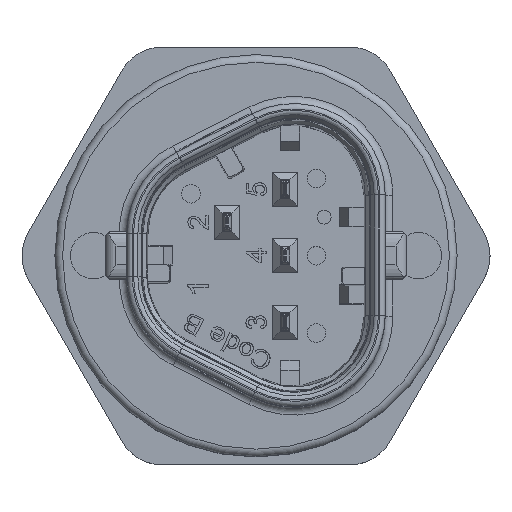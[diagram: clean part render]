
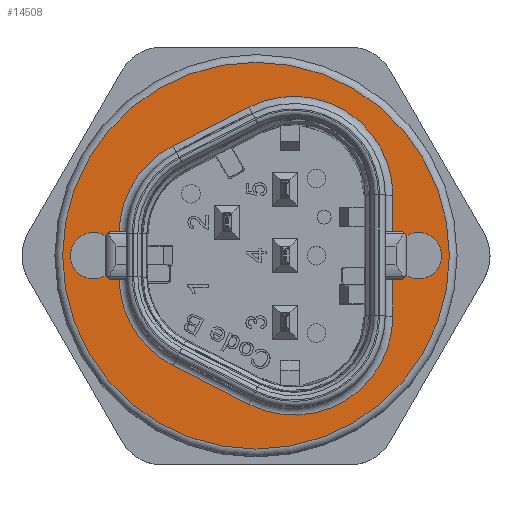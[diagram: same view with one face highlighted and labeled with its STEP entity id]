
A CAD part, top view. The second image highlights one B-rep face of the part: STEP entity #14508.
In plain terms, the highlighted planar face has unit normal (0, 0, 1).
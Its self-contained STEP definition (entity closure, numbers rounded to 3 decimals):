
#8582=LINE('',#39060,#10137);
#8583=LINE('',#39077,#10138);
#8586=LINE('',#39084,#10141);
#8588=LINE('',#39099,#10143);
#10137=VECTOR('',#30703,1.);
#10138=VECTOR('',#30724,1.);
#10141=VECTOR('',#30731,1.);
#10143=VECTOR('',#30751,1.);
#13434=PLANE('',#27627);
#14508=ADVANCED_FACE('',(#14725,#14726,#14727,#14728),#13434,.T.);
#14725=FACE_BOUND('',#15897,.T.);
#14726=FACE_BOUND('',#15898,.T.);
#14727=FACE_BOUND('',#15899,.T.);
#14728=FACE_BOUND('',#15900,.T.);
#15897=EDGE_LOOP('',(#20927));
#15898=EDGE_LOOP('',(#20928));
#15899=EDGE_LOOP('',(#20929));
#15900=EDGE_LOOP('',(#20930,#20931,#20932,#20933,#20934,#20935,#20936,#20937));
#20927=ORIENTED_EDGE('',*,*,#26092,.T.);
#20928=ORIENTED_EDGE('',*,*,#26094,.F.);
#20929=ORIENTED_EDGE('',*,*,#26096,.F.);
#20930=ORIENTED_EDGE('',*,*,#25449,.T.);
#20931=ORIENTED_EDGE('',*,*,#25443,.T.);
#20932=ORIENTED_EDGE('',*,*,#25445,.T.);
#20933=ORIENTED_EDGE('',*,*,#25451,.T.);
#20934=ORIENTED_EDGE('',*,*,#25457,.T.);
#20935=ORIENTED_EDGE('',*,*,#25463,.T.);
#20936=ORIENTED_EDGE('',*,*,#25461,.T.);
#20937=ORIENTED_EDGE('',*,*,#25455,.T.);
#22909=VERTEX_POINT('',#39054);
#22912=VERTEX_POINT('',#39059);
#22914=VERTEX_POINT('',#39064);
#22915=VERTEX_POINT('',#39069);
#22918=VERTEX_POINT('',#39076);
#22919=VERTEX_POINT('',#39081);
#22922=VERTEX_POINT('',#39088);
#22923=VERTEX_POINT('',#39093);
#23314=VERTEX_POINT('',#41058);
#23316=VERTEX_POINT('',#41063);
#23318=VERTEX_POINT('',#41069);
#25443=EDGE_CURVE('',#22909,#22912,#8582,.T.);
#25445=EDGE_CURVE('',#22912,#22914,#26223,.T.);
#25449=EDGE_CURVE('',#22915,#22909,#26227,.T.);
#25451=EDGE_CURVE('',#22914,#22918,#8583,.T.);
#25455=EDGE_CURVE('',#22919,#22915,#8586,.T.);
#25457=EDGE_CURVE('',#22918,#22922,#26231,.T.);
#25461=EDGE_CURVE('',#22923,#22919,#26235,.T.);
#25463=EDGE_CURVE('',#22922,#22923,#8588,.T.);
#26092=EDGE_CURVE('',#23314,#23314,#26320,.T.);
#26094=EDGE_CURVE('',#23316,#23316,#26322,.T.);
#26096=EDGE_CURVE('',#23318,#23318,#26324,.T.);
#26223=CIRCLE('',#27239,6.4);
#26227=CIRCLE('',#27244,6.4);
#26231=CIRCLE('',#27251,6.4);
#26235=CIRCLE('',#27256,6.4);
#26320=CIRCLE('',#27614,12.5);
#26322=CIRCLE('',#27617,1.5);
#26324=CIRCLE('',#27621,1.5);
#27239=AXIS2_PLACEMENT_3D('',#39065,#30708,#30709);
#27244=AXIS2_PLACEMENT_3D('',#39072,#30718,#30719);
#27251=AXIS2_PLACEMENT_3D('',#39089,#30736,#30737);
#27256=AXIS2_PLACEMENT_3D('',#39096,#30746,#30747);
#27614=AXIS2_PLACEMENT_3D('',#41057,#31781,#31782);
#27617=AXIS2_PLACEMENT_3D('',#41062,#31787,#31788);
#27621=AXIS2_PLACEMENT_3D('',#41068,#31795,#31796);
#27627=AXIS2_PLACEMENT_3D('',#41076,#31807,#31808);
#30703=DIRECTION('',(0.891,0.454,0.));
#30708=DIRECTION('',(0.,0.,-1.));
#30709=DIRECTION('',(0.,1.,0.));
#30718=DIRECTION('',(0.,0.,-1.));
#30719=DIRECTION('',(0.,1.,0.));
#30724=DIRECTION('',(0.,-1.,0.));
#30731=DIRECTION('',(0.,1.,0.));
#30736=DIRECTION('',(0.,0.,-1.));
#30737=DIRECTION('',(0.,1.,0.));
#30746=DIRECTION('',(0.,0.,-1.));
#30747=DIRECTION('',(0.,1.,0.));
#30751=DIRECTION('',(-0.891,0.454,0.));
#31781=DIRECTION('',(0.,0.,1.));
#31782=DIRECTION('',(1.,0.,0.));
#31787=DIRECTION('',(0.,0.,1.));
#31788=DIRECTION('',(1.,0.,0.));
#31795=DIRECTION('',(0.,0.,1.));
#31796=DIRECTION('',(1.,0.,0.));
#31807=DIRECTION('',(0.,0.,1.));
#31808=DIRECTION('',(1.,0.,0.));
#39054=CARTESIAN_POINT('',(-5.359,7.101,12.35));
#39059=CARTESIAN_POINT('',(-0.459,9.601,12.35));
#39060=CARTESIAN_POINT('',(-3.982,7.803,12.35));
#39064=CARTESIAN_POINT('',(8.85,3.9,12.35));
#39065=CARTESIAN_POINT('',(2.45,3.9,12.35));
#39069=CARTESIAN_POINT('',(-8.85,1.4,12.35));
#39072=CARTESIAN_POINT('',(-2.45,1.4,12.35));
#39076=CARTESIAN_POINT('',(8.85,-3.9,12.35));
#39077=CARTESIAN_POINT('',(8.85,0.,12.35));
#39081=CARTESIAN_POINT('',(-8.85,-1.4,12.35));
#39084=CARTESIAN_POINT('',(-8.85,0.,12.35));
#39088=CARTESIAN_POINT('',(-0.459,-9.601,12.35));
#39089=CARTESIAN_POINT('',(2.45,-3.9,12.35));
#39093=CARTESIAN_POINT('',(-5.359,-7.101,12.35));
#39096=CARTESIAN_POINT('',(-2.45,-1.4,12.35));
#39099=CARTESIAN_POINT('',(-3.982,-7.803,12.35));
#41057=CARTESIAN_POINT('',(0.,0.,12.35));
#41058=CARTESIAN_POINT('',(12.5,0.,12.35));
#41062=CARTESIAN_POINT('',(-10.5,0.,12.35));
#41063=CARTESIAN_POINT('',(-9.,0.,12.35));
#41068=CARTESIAN_POINT('',(10.5,0.,12.35));
#41069=CARTESIAN_POINT('',(12.,0.,12.35));
#41076=CARTESIAN_POINT('',(0.,0.,12.35));
